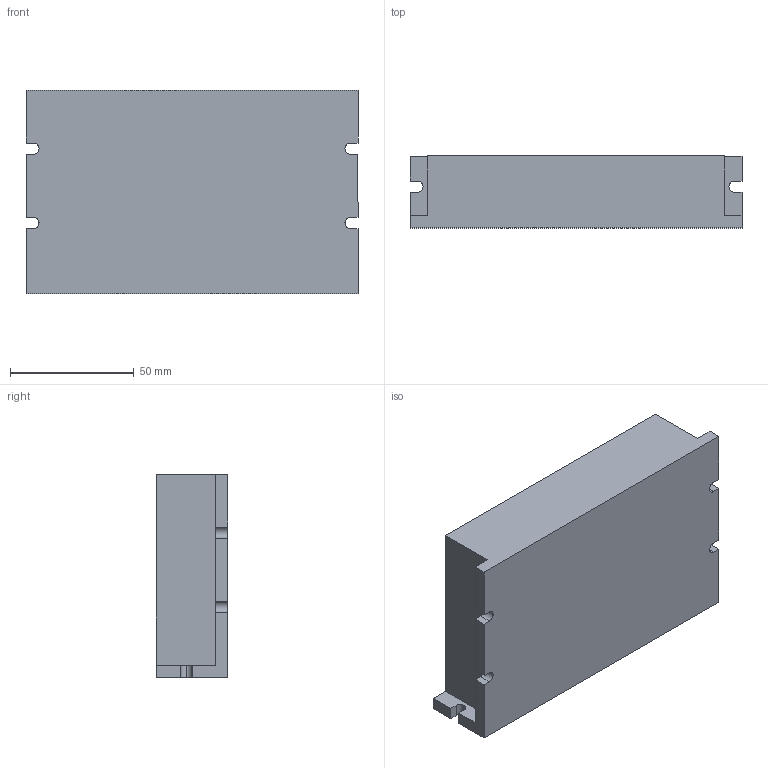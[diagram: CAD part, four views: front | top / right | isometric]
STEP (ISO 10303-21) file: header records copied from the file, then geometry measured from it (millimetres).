
FILE_DESCRIPTION (( 'STEP AP214' ), '1' );
FILE_NAME ('ecr60.STEP', '2020-12-11T01:24:15', ( 'wimxt.com' ), ( 'wimxt.com' ), 'SwSTEP 2.0', 'SolidWorks 2014', '' );
FILE_SCHEMA (( 'AUTOMOTIVE_DESIGN' ));
Length unit declared in the file: millimetre
Products named in the file (1): ecr60
Bounding box: 134 x 29 x 82 mm (x, y, z)
Volume: 292136.4 mm3; surface area: 34503.6 mm2
Topology: 1 solids, 1 shells, 37 faces, 105 edges, 70 vertices
Faces by surface type: plane 30, cylinder 7
Entity records: 1227 total; most frequent: CARTESIAN_POINT 213, ORIENTED_EDGE 210, DIRECTION 195, EDGE_CURVE 105, VECTOR 91, LINE 91, VERTEX_POINT 70, AXIS2_PLACEMENT_3D 52
